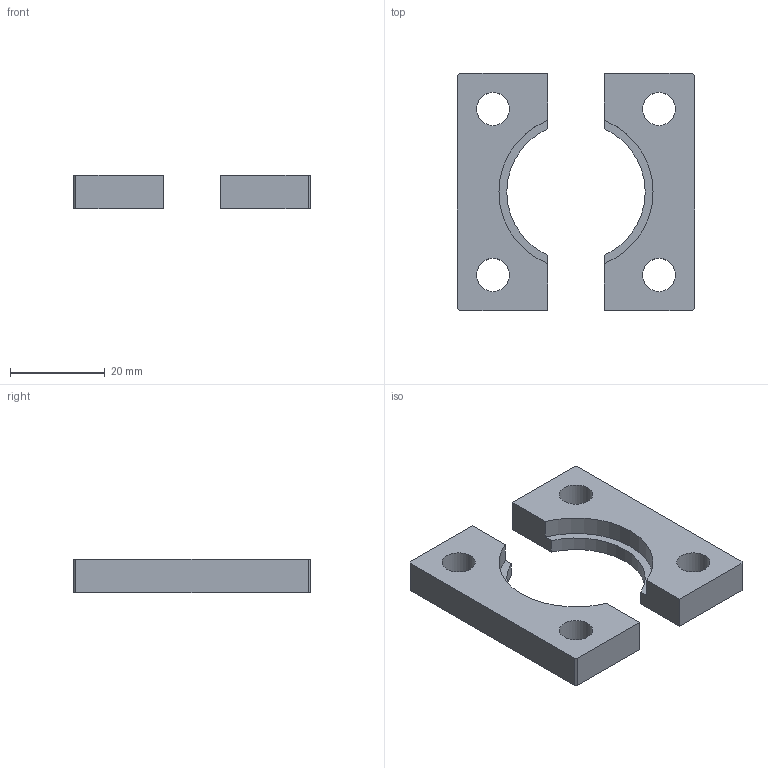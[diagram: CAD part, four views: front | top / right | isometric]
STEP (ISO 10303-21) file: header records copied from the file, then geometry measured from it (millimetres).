
FILE_DESCRIPTION(/* description */ (''),/* implementation_level */ '2;1');
FILE_NAME(/* name */ 'C:\Users\Jefferson\Desktop\Biblioteca Pro Nitro 2024\Flanges\PNB-55-XXX\PNB-55-032.stp',/* time_stamp */ '2024-01-26T11:34:34-03:00',/* author */ ('Jefferson'),/* organization */ (''),/* preprocessor_version */ 'ST-DEVELOPER v18.1',/* originating_system */ 'Autodesk Inventor 2021',/* authorisation */ '');
FILE_SCHEMA (('AUTOMOTIVE_DESIGN { 1 0 10303 214 3 1 1 }'));
Length unit declared in the file: millimetre
Products named in the file (1): PNB-55-1
Bounding box: 50 x 50 x 7 mm (x, y, z)
Volume: 9434.1 mm3; surface area: 5493.9 mm2
Topology: 2 solids, 2 shells, 196 faces, 534 edges, 356 vertices
Faces by surface type: plane 98, bspline 90, cylinder 8
Full cylindrical faces by diameter (mm): 7 x4
Entity records: 6670 total; most frequent: CARTESIAN_POINT 2257, ORIENTED_EDGE 1068, DIRECTION 584, EDGE_CURVE 534, VERTEX_POINT 356, LINE 338, VECTOR 338, EDGE_LOOP 218
